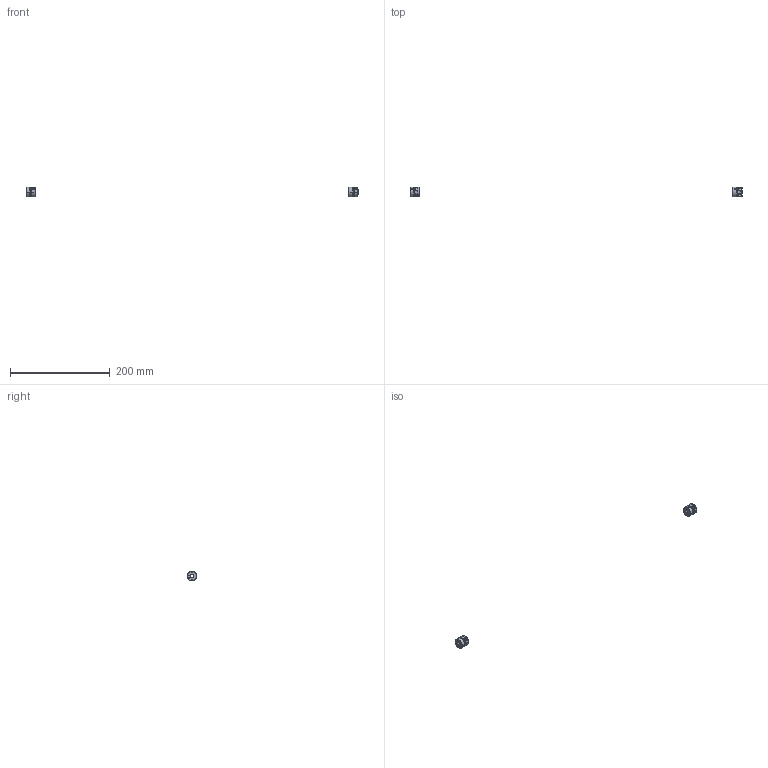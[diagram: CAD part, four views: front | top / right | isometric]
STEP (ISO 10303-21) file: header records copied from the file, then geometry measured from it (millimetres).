
FILE_DESCRIPTION(/* description */ (''),/* implementation_level */ '2;1');
FILE_NAME(/* name */ '6.y-drive#6.11#MCKSC20-6-6',/* time_stamp */ '2014-12-01T20:16:23+01:00',/* author */ (''),/* organization */ (''),/* preprocessor_version */ 'ST-DEVELOPER v14',/* originating_system */ '',/* authorisation */ '');
FILE_SCHEMA (('AUTOMOTIVE_DESIGN'));
Length unit declared in the file: millimetre
Products named in the file (1): Document
Bounding box: 666.4 x 20 x 20 mm (x, y, z)
Surface area: 7351.8 mm2 (no closed solid volume)
Topology: 0 solids, 288 shells, 288 faces, 952 edges, 944 vertices
Faces by surface type: bspline 146, plane 142
Entity records: 26873 total; most frequent: CARTESIAN_POINT 15399, B_SPLINE_CURVE_WITH_KNOTS 1218, ORIENTED_EDGE 944, PCURVE 944, DEFINITIONAL_REPRESENTATION 944, SURFACE_CURVE 944, EDGE_CURVE 944, VERTEX_POINT 944
